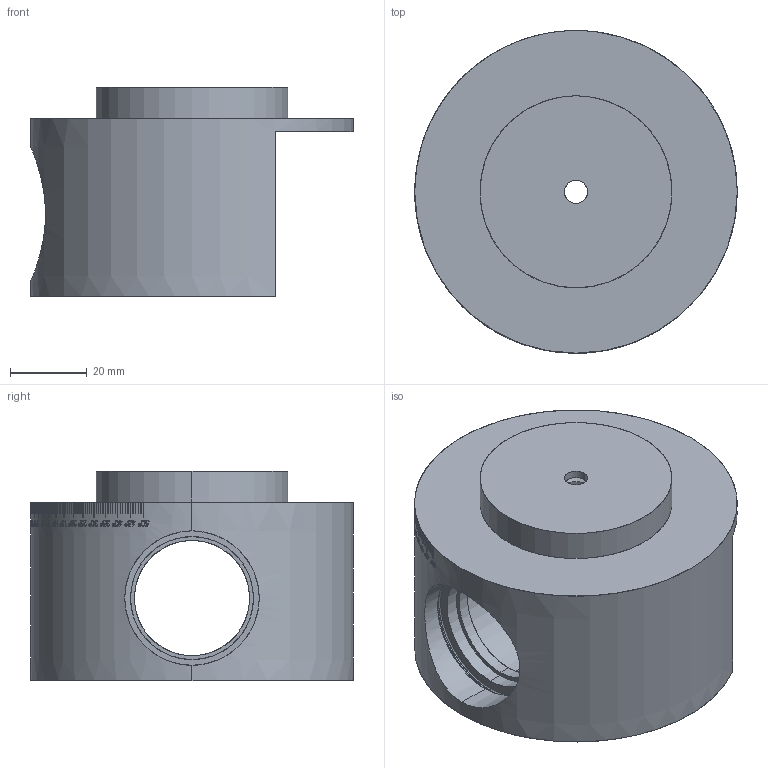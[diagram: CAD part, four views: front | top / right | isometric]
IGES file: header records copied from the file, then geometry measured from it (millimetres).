
Start section: SolidWorks IGES file using analytic representation for surfaces
Global section: file name: T:\DM\Intern\Examens\Locker\2022\TPP22\Documents de préparation\TPP_LS-01-02-001.IGS; native system: SolidWorks 2021; preprocessor: SolidWorks 2021; author: julie; date: 211026.140143; units: millimetre
Bounding box: 84 x 84 x 54.5 mm (x, y, z)
Surface area: 28489 mm2 (no closed solid volume)
Topology: 0 solids, 0 shells, 959 faces, 9773 edges, 9765 vertices
Faces by surface type: bspline 756, revolution 203
